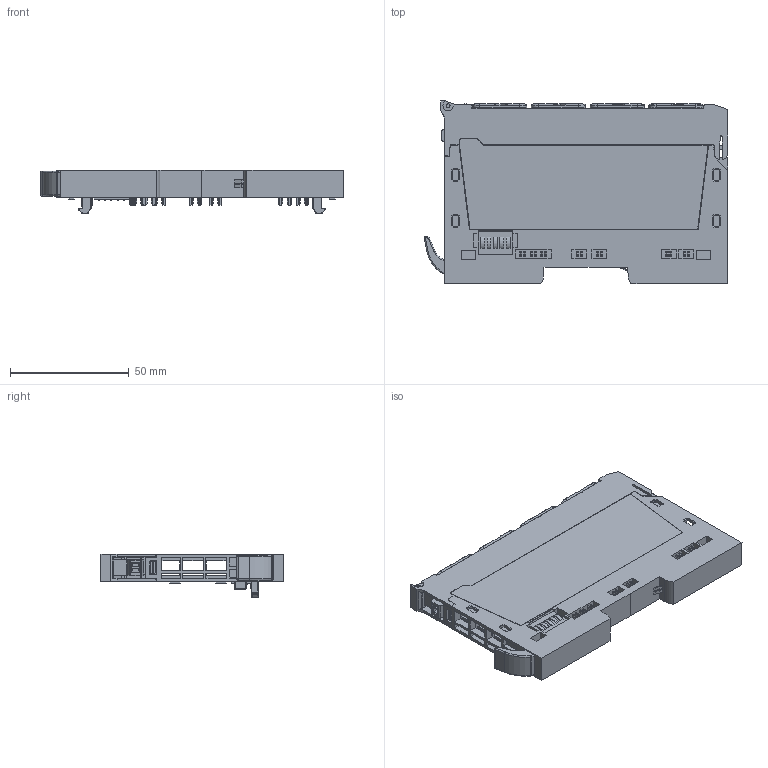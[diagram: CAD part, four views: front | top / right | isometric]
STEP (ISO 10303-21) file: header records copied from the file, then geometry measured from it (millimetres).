
FILE_DESCRIPTION(('CATIA V5R24 STEP','CAx-IF Rec.Pracs.--- Model Styling and Organization---1.2---2011-12-15'),'2;1');
FILE_NAME('D:\UR20\Gordon Brandlable GE\EP-5311_UR20-1SSI.stp','2016-08-12T06:52:26+00:00',('Weidmueller Interface'),('WI'),'CATIA Version 5-6 Release 2014 SP4','CATIA V5 STEP AP214','none');
FILE_SCHEMA(('AUTOMOTIVE_DESIGN { 1 0 10303 214 1 1 1 1 }'));
Products named in the file (1): EP-5311_UR20-1SSI
Bounding box: 127.88 x 77.45 x 18.5 mm (x, y, z)
Volume: 66160.9 mm3; surface area: 73053.7 mm2
Topology: 24 solids, 40 shells, 6469 faces, 17798 edges, 11475 vertices
Faces by surface type: plane 4218, cylinder 1101, bspline 628, cone 336, torus 70, revolution 64, sphere 36, extrusion 16
Entity records: 227426 total; most frequent: CARTESIAN_POINT 72240, ORIENTED_EDGE 35516, DIRECTION 23069, EDGE_CURVE 17758, VECTOR 12781, LINE 12765, VERTEX_POINT 11475, EDGE_LOOP 6723
